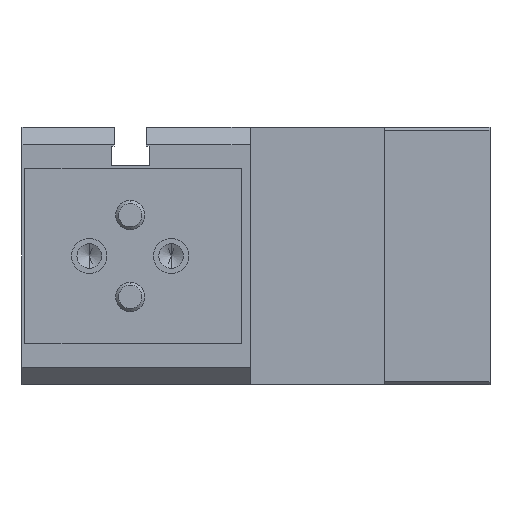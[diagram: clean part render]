
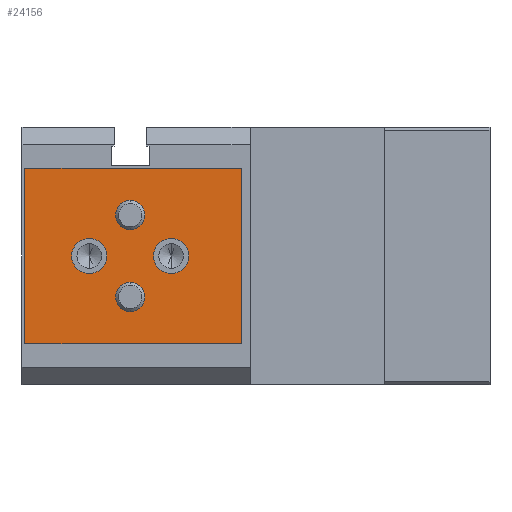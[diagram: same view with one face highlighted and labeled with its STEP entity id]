
A CAD part, left-side view. The second image highlights one B-rep face of the part: STEP entity #24156.
In plain terms, the highlighted planar face has unit normal (-1, 0, 0) as drawn and (1, 0, 0) by its records, which use the part's own axes.
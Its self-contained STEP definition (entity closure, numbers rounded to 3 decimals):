
#332 = CARTESIAN_POINT ( 'NONE',  ( 0., 0., -9.5 ) ) ;
#360 = ORIENTED_EDGE ( 'NONE', *, *, #5664, .F. ) ;
#989 = CARTESIAN_POINT ( 'NONE',  ( 0., -7., 0. ) ) ;
#1523 = DIRECTION ( 'NONE',  ( 0., 0., 1. ) ) ;
#1593 = DIRECTION ( 'NONE',  ( -1., 0., 0. ) ) ;
#1732 = CARTESIAN_POINT ( 'NONE',  ( 0., -7., 0. ) ) ;
#2463 = VECTOR ( 'NONE', #13075, 1000. ) ;
#2914 = CIRCLE ( 'NONE', #14715, 2.5 ) ;
#2999 = EDGE_CURVE ( 'NONE', #33855, #47306, #22687, .T. ) ;
#3022 = CARTESIAN_POINT ( 'NONE',  ( 0., -19., 15. ) ) ;
#3439 = VECTOR ( 'NONE', #15039, 1000. ) ;
#3676 = ORIENTED_EDGE ( 'NONE', *, *, #7849, .F. ) ;
#4396 = CARTESIAN_POINT ( 'NONE',  ( 0., 7., -3. ) ) ;
#4718 = DIRECTION ( 'NONE',  ( 0., 0., -1. ) ) ;
#4766 = AXIS2_PLACEMENT_3D ( 'NONE', #1732, #27504, #5467 ) ;
#4805 = CIRCLE ( 'NONE', #33654, 3. ) ;
#5467 = DIRECTION ( 'NONE',  ( 0., 0., -1. ) ) ;
#5664 = EDGE_CURVE ( 'NONE', #15105, #46820, #5852, .T. ) ;
#5824 = FACE_BOUND ( 'NONE', #14944, .T. ) ;
#5852 = LINE ( 'NONE', #35972, #32987 ) ;
#6396 = CIRCLE ( 'NONE', #7261, 2.5 ) ;
#6988 = VERTEX_POINT ( 'NONE', #35560 ) ;
#7261 = AXIS2_PLACEMENT_3D ( 'NONE', #19006, #44815, #22688 ) ;
#7290 = AXIS2_PLACEMENT_3D ( 'NONE', #45772, #23645, #1523 ) ;
#7502 = EDGE_LOOP ( 'NONE', ( #35062, #9718 ) ) ;
#7849 = EDGE_CURVE ( 'NONE', #28270, #40825, #19193, .T. ) ;
#8117 = CARTESIAN_POINT ( 'NONE',  ( 0., 18., 15. ) ) ;
#8444 = EDGE_CURVE ( 'NONE', #29959, #47645, #44574, .T. ) ;
#8833 = PLANE ( 'NONE',  #25926 ) ;
#8864 = DIRECTION ( 'NONE',  ( 1., 0., 0. ) ) ;
#9257 = DIRECTION ( 'NONE',  ( 1., 0., 0. ) ) ;
#9718 = ORIENTED_EDGE ( 'NONE', *, *, #36222, .F. ) ;
#9780 = ORIENTED_EDGE ( 'NONE', *, *, #22677, .F. ) ;
#11590 = EDGE_CURVE ( 'NONE', #35008, #15105, #31706, .T. ) ;
#12422 = AXIS2_PLACEMENT_3D ( 'NONE', #36672, #14585, #40370 ) ;
#13075 = DIRECTION ( 'NONE',  ( 0., 1., 0. ) ) ;
#14349 = AXIS2_PLACEMENT_3D ( 'NONE', #43846, #21721, #47577 ) ;
#14585 = DIRECTION ( 'NONE',  ( 1., 0., 0. ) ) ;
#14715 = AXIS2_PLACEMENT_3D ( 'NONE', #31359, #9257, #35089 ) ;
#14944 = EDGE_LOOP ( 'NONE', ( #32925, #26145 ) ) ;
#15039 = DIRECTION ( 'NONE',  ( 0., 0., -1. ) ) ;
#15105 = VERTEX_POINT ( 'NONE', #33280 ) ;
#15659 = FACE_BOUND ( 'NONE', #24182, .T. ) ;
#16312 = CARTESIAN_POINT ( 'NONE',  ( 0., -7., -3. ) ) ;
#17596 = DIRECTION ( 'NONE',  ( 0., -1., 0. ) ) ;
#18470 = VERTEX_POINT ( 'NONE', #42186 ) ;
#18650 = ORIENTED_EDGE ( 'NONE', *, *, #8444, .F. ) ;
#19006 = CARTESIAN_POINT ( 'NONE',  ( 0., 0., 7. ) ) ;
#19144 = VERTEX_POINT ( 'NONE', #332 ) ;
#19193 = CIRCLE ( 'NONE', #4766, 3. ) ;
#20412 = CARTESIAN_POINT ( 'NONE',  ( 0., 0., 4.5 ) ) ;
#21721 = DIRECTION ( 'NONE',  ( 1., 0., 0. ) ) ;
#22501 = EDGE_CURVE ( 'NONE', #40825, #28270, #4805, .T. ) ;
#22642 = ORIENTED_EDGE ( 'NONE', *, *, #47010, .F. ) ;
#22677 = EDGE_CURVE ( 'NONE', #6988, #35008, #41722, .T. ) ;
#22687 = CIRCLE ( 'NONE', #7290, 2.5 ) ;
#22688 = DIRECTION ( 'NONE',  ( 0., 0., 1. ) ) ;
#23557 = ORIENTED_EDGE ( 'NONE', *, *, #11590, .F. ) ;
#23645 = DIRECTION ( 'NONE',  ( 1., 0., 0. ) ) ;
#23714 = CARTESIAN_POINT ( 'NONE',  ( 0., 18., 15. ) ) ;
#24156 = ADVANCED_FACE ( 'NONE', ( #43944, #28882, #5824, #15659, #25412 ), #8833, .F. ) ;
#24182 = EDGE_LOOP ( 'NONE', ( #35270, #18650 ) ) ;
#25412 = FACE_BOUND ( 'NONE', #43553, .T. ) ;
#25926 = AXIS2_PLACEMENT_3D ( 'NONE', #23714, #1593, #27380 ) ;
#26145 = ORIENTED_EDGE ( 'NONE', *, *, #39659, .F. ) ;
#26711 = EDGE_LOOP ( 'NONE', ( #22642, #360, #23557, #9780 ) ) ;
#26782 = DIRECTION ( 'NONE',  ( 1., 0., 0. ) ) ;
#26898 = CARTESIAN_POINT ( 'NONE',  ( 0., -19., -15. ) ) ;
#27380 = DIRECTION ( 'NONE',  ( 0., 0., 1. ) ) ;
#27423 = CIRCLE ( 'NONE', #12422, 3. ) ;
#27504 = DIRECTION ( 'NONE',  ( 1., 0., 0. ) ) ;
#27883 = CARTESIAN_POINT ( 'NONE',  ( 0., 0., 9.5 ) ) ;
#28270 = VERTEX_POINT ( 'NONE', #35786 ) ;
#28882 = FACE_OUTER_BOUND ( 'NONE', #26711, .T. ) ;
#29959 = VERTEX_POINT ( 'NONE', #41403 ) ;
#30975 = CARTESIAN_POINT ( 'NONE',  ( 0., 7., 0. ) ) ;
#31013 = AXIS2_PLACEMENT_3D ( 'NONE', #30975, #8864, #34722 ) ;
#31359 = CARTESIAN_POINT ( 'NONE',  ( 0., 0., -7. ) ) ;
#31458 = CARTESIAN_POINT ( 'NONE',  ( 0., -19., 15. ) ) ;
#31513 = VECTOR ( 'NONE', #39942, 1000. ) ;
#31706 = LINE ( 'NONE', #37122, #3439 ) ;
#32925 = ORIENTED_EDGE ( 'NONE', *, *, #2999, .F. ) ;
#32987 = VECTOR ( 'NONE', #17596, 1000. ) ;
#33280 = CARTESIAN_POINT ( 'NONE',  ( 0., 18., -15. ) ) ;
#33654 = AXIS2_PLACEMENT_3D ( 'NONE', #989, #26782, #4718 ) ;
#33657 = CIRCLE ( 'NONE', #14349, 2.5 ) ;
#33855 = VERTEX_POINT ( 'NONE', #27883 ) ;
#34722 = DIRECTION ( 'NONE',  ( 0., 0., -1. ) ) ;
#35008 = VERTEX_POINT ( 'NONE', #8117 ) ;
#35062 = ORIENTED_EDGE ( 'NONE', *, *, #39809, .F. ) ;
#35089 = DIRECTION ( 'NONE',  ( 0., 0., 1. ) ) ;
#35270 = ORIENTED_EDGE ( 'NONE', *, *, #47500, .F. ) ;
#35560 = CARTESIAN_POINT ( 'NONE',  ( 0., -19., 15. ) ) ;
#35786 = CARTESIAN_POINT ( 'NONE',  ( 0., -7., 3. ) ) ;
#35972 = CARTESIAN_POINT ( 'NONE',  ( 0., -19., -15. ) ) ;
#36222 = EDGE_CURVE ( 'NONE', #19144, #18470, #33657, .T. ) ;
#36672 = CARTESIAN_POINT ( 'NONE',  ( 0., 7., 0. ) ) ;
#37122 = CARTESIAN_POINT ( 'NONE',  ( 0., 18., 15. ) ) ;
#39659 = EDGE_CURVE ( 'NONE', #47306, #33855, #6396, .T. ) ;
#39809 = EDGE_CURVE ( 'NONE', #18470, #19144, #2914, .T. ) ;
#39942 = DIRECTION ( 'NONE',  ( 0., 0., 1. ) ) ;
#40370 = DIRECTION ( 'NONE',  ( 0., 0., -1. ) ) ;
#40825 = VERTEX_POINT ( 'NONE', #16312 ) ;
#41353 = LINE ( 'NONE', #3022, #31513 ) ;
#41403 = CARTESIAN_POINT ( 'NONE',  ( 0., 7., 3. ) ) ;
#41722 = LINE ( 'NONE', #31458, #2463 ) ;
#42186 = CARTESIAN_POINT ( 'NONE',  ( 0., 0., -4.5 ) ) ;
#43553 = EDGE_LOOP ( 'NONE', ( #43782, #3676 ) ) ;
#43782 = ORIENTED_EDGE ( 'NONE', *, *, #22501, .F. ) ;
#43846 = CARTESIAN_POINT ( 'NONE',  ( 0., 0., -7. ) ) ;
#43944 = FACE_BOUND ( 'NONE', #7502, .T. ) ;
#44574 = CIRCLE ( 'NONE', #31013, 3. ) ;
#44815 = DIRECTION ( 'NONE',  ( 1., 0., 0. ) ) ;
#45772 = CARTESIAN_POINT ( 'NONE',  ( 0., 0., 7. ) ) ;
#46820 = VERTEX_POINT ( 'NONE', #26898 ) ;
#47010 = EDGE_CURVE ( 'NONE', #46820, #6988, #41353, .T. ) ;
#47306 = VERTEX_POINT ( 'NONE', #20412 ) ;
#47500 = EDGE_CURVE ( 'NONE', #47645, #29959, #27423, .T. ) ;
#47577 = DIRECTION ( 'NONE',  ( 0., 0., 1. ) ) ;
#47645 = VERTEX_POINT ( 'NONE', #4396 ) ;
